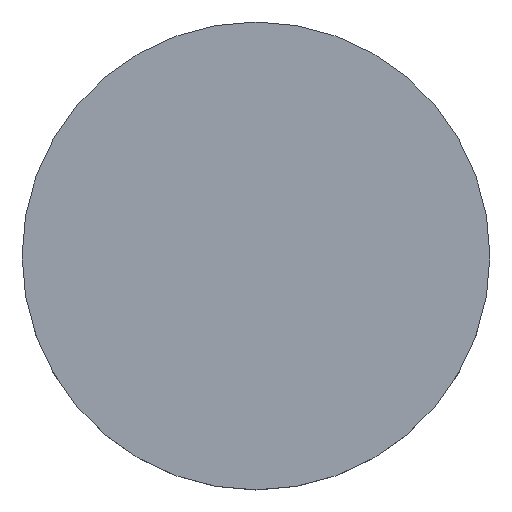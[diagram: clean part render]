
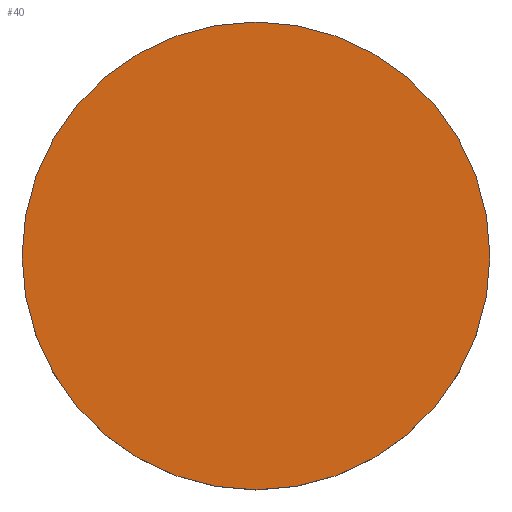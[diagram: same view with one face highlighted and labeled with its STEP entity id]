
A CAD part, top view. The second image highlights one B-rep face of the part: STEP entity #40.
In plain terms, the highlighted planar face has unit normal (0, 0, 1).
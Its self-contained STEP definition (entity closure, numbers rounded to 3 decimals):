
#15=PLANE('',#68);
#18=FACE_OUTER_BOUND('',#21,.T.);
#21=EDGE_LOOP('',(#36));
#25=CIRCLE('',#66,51.);
#27=VERTEX_POINT('',#85);
#29=EDGE_CURVE('',#27,#27,#25,.T.);
#36=ORIENTED_EDGE('',*,*,#29,.T.);
#40=ADVANCED_FACE('',(#18),#15,.T.);
#66=AXIS2_PLACEMENT_3D('',#86,#74,#75);
#68=AXIS2_PLACEMENT_3D('',#90,#79,#80);
#74=DIRECTION('center_axis',(0.,0.,1.));
#75=DIRECTION('ref_axis',(1.,0.,0.));
#79=DIRECTION('center_axis',(0.,0.,1.));
#80=DIRECTION('ref_axis',(1.,0.,0.));
#85=CARTESIAN_POINT('',(-51.,0.,14.));
#86=CARTESIAN_POINT('Origin',(0.,0.,14.));
#90=CARTESIAN_POINT('Origin',(0.,0.,14.));
